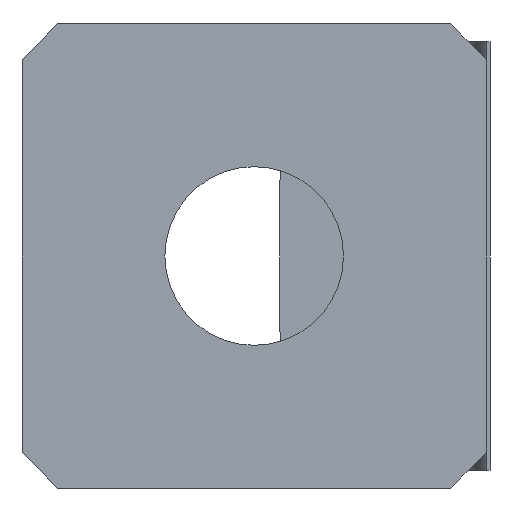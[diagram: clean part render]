
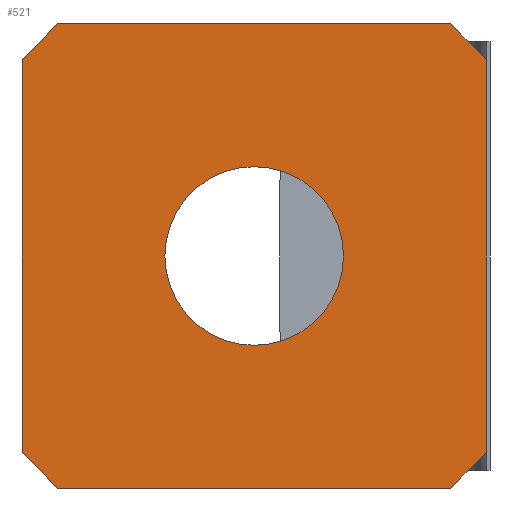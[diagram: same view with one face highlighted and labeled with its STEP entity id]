
A CAD part, front view. The second image highlights one B-rep face of the part: STEP entity #521.
In plain terms, the highlighted planar face has unit normal (0, -1, 0).
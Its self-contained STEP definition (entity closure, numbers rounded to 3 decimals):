
#3 = CARTESIAN_POINT ( 'NONE',  ( 6., 0., -6. ) ) ;
#10 = CARTESIAN_POINT ( 'NONE',  ( 0., 0., 0. ) ) ;
#11 = VECTOR ( 'NONE', #699, 1000. ) ;
#25 = VERTEX_POINT ( 'NONE', #425 ) ;
#32 = VERTEX_POINT ( 'NONE', #216 ) ;
#64 = CARTESIAN_POINT ( 'NONE',  ( 6.5, 0., 5.5 ) ) ;
#67 = CARTESIAN_POINT ( 'NONE',  ( 6.5, 0., 6.5 ) ) ;
#108 = ORIENTED_EDGE ( 'NONE', *, *, #355, .T. ) ;
#109 = CARTESIAN_POINT ( 'NONE',  ( -6., 0., -6. ) ) ;
#116 = DIRECTION ( 'NONE',  ( 1., 0., 0. ) ) ;
#125 = LINE ( 'NONE', #67, #422 ) ;
#129 = VECTOR ( 'NONE', #201, 1000. ) ;
#131 = CARTESIAN_POINT ( 'NONE',  ( 0., 0., 0. ) ) ;
#162 = VERTEX_POINT ( 'NONE', #883 ) ;
#163 = EDGE_CURVE ( 'NONE', #760, #32, #125, .T. ) ;
#164 = DIRECTION ( 'NONE',  ( 0., 0., 1. ) ) ;
#166 = CARTESIAN_POINT ( 'NONE',  ( 5.5, 0., -6.5 ) ) ;
#167 = VERTEX_POINT ( 'NONE', #818 ) ;
#180 = VERTEX_POINT ( 'NONE', #199 ) ;
#199 = CARTESIAN_POINT ( 'NONE',  ( 5.5, 0., 6.5 ) ) ;
#201 = DIRECTION ( 'NONE',  ( 0.707, 0., 0.707 ) ) ;
#216 = CARTESIAN_POINT ( 'NONE',  ( 6.5, 0., -5.5 ) ) ;
#218 = CIRCLE ( 'NONE', #826, 2.5 ) ;
#225 = ORIENTED_EDGE ( 'NONE', *, *, #684, .T. ) ;
#228 = VERTEX_POINT ( 'NONE', #286 ) ;
#231 = LINE ( 'NONE', #636, #583 ) ;
#262 = LINE ( 'NONE', #3, #129 ) ;
#271 = EDGE_LOOP ( 'NONE', ( #716 ) ) ;
#286 = CARTESIAN_POINT ( 'NONE',  ( 0., 0., 2.5 ) ) ;
#302 = VERTEX_POINT ( 'NONE', #166 ) ;
#303 = LINE ( 'NONE', #664, #459 ) ;
#347 = LINE ( 'NONE', #357, #11 ) ;
#355 = EDGE_CURVE ( 'NONE', #167, #162, #231, .T. ) ;
#357 = CARTESIAN_POINT ( 'NONE',  ( -6.5, 0., 6.5 ) ) ;
#358 = AXIS2_PLACEMENT_3D ( 'NONE', #131, #785, #416 ) ;
#377 = EDGE_CURVE ( 'NONE', #725, #162, #347, .T. ) ;
#379 = DIRECTION ( 'NONE',  ( 0.707, 0., -0.707 ) ) ;
#390 = DIRECTION ( 'NONE',  ( 0., 0., -1. ) ) ;
#416 = DIRECTION ( 'NONE',  ( 0., 0., -1. ) ) ;
#417 = EDGE_LOOP ( 'NONE', ( #764, #697, #438, #784, #630, #108, #462, #225 ) ) ;
#422 = VECTOR ( 'NONE', #390, 1000. ) ;
#425 = CARTESIAN_POINT ( 'NONE',  ( -5.5, 0., -6.5 ) ) ;
#438 = ORIENTED_EDGE ( 'NONE', *, *, #163, .F. ) ;
#459 = VECTOR ( 'NONE', #859, 1000. ) ;
#462 = ORIENTED_EDGE ( 'NONE', *, *, #377, .F. ) ;
#473 = EDGE_CURVE ( 'NONE', #167, #180, #529, .T. ) ;
#478 = FACE_BOUND ( 'NONE', #271, .T. ) ;
#484 = DIRECTION ( 'NONE',  ( 0., 1., 0. ) ) ;
#521 = ADVANCED_FACE ( 'NONE', ( #478, #768 ), #561, .T. ) ;
#529 = LINE ( 'NONE', #740, #770 ) ;
#561 = PLANE ( 'NONE',  #358 ) ;
#564 = VECTOR ( 'NONE', #379, 1000. ) ;
#583 = VECTOR ( 'NONE', #652, 1000. ) ;
#585 = EDGE_CURVE ( 'NONE', #228, #228, #218, .T. ) ;
#600 = EDGE_CURVE ( 'NONE', #760, #180, #303, .T. ) ;
#601 = CARTESIAN_POINT ( 'NONE',  ( -6.5, 0., -6.5 ) ) ;
#612 = CARTESIAN_POINT ( 'NONE',  ( -6.5, 0., -5.5 ) ) ;
#630 = ORIENTED_EDGE ( 'NONE', *, *, #473, .F. ) ;
#636 = CARTESIAN_POINT ( 'NONE',  ( -6., 0., 6. ) ) ;
#652 = DIRECTION ( 'NONE',  ( -0.707, 0., -0.707 ) ) ;
#664 = CARTESIAN_POINT ( 'NONE',  ( 6., 0., 6. ) ) ;
#684 = EDGE_CURVE ( 'NONE', #725, #25, #730, .T. ) ;
#697 = ORIENTED_EDGE ( 'NONE', *, *, #737, .T. ) ;
#699 = DIRECTION ( 'NONE',  ( 0., 0., 1. ) ) ;
#716 = ORIENTED_EDGE ( 'NONE', *, *, #585, .T. ) ;
#725 = VERTEX_POINT ( 'NONE', #612 ) ;
#730 = LINE ( 'NONE', #109, #564 ) ;
#737 = EDGE_CURVE ( 'NONE', #302, #32, #262, .T. ) ;
#740 = CARTESIAN_POINT ( 'NONE',  ( -6.5, 0., 6.5 ) ) ;
#760 = VERTEX_POINT ( 'NONE', #64 ) ;
#764 = ORIENTED_EDGE ( 'NONE', *, *, #765, .F. ) ;
#765 = EDGE_CURVE ( 'NONE', #302, #25, #881, .T. ) ;
#768 = FACE_OUTER_BOUND ( 'NONE', #417, .T. ) ;
#770 = VECTOR ( 'NONE', #116, 1000. ) ;
#784 = ORIENTED_EDGE ( 'NONE', *, *, #600, .T. ) ;
#785 = DIRECTION ( 'NONE',  ( 0., -1., 0. ) ) ;
#818 = CARTESIAN_POINT ( 'NONE',  ( -5.5, 0., 6.5 ) ) ;
#826 = AXIS2_PLACEMENT_3D ( 'NONE', #10, #484, #164 ) ;
#859 = DIRECTION ( 'NONE',  ( -0.707, 0., 0.707 ) ) ;
#870 = VECTOR ( 'NONE', #876, 1000. ) ;
#876 = DIRECTION ( 'NONE',  ( -1., 0., 0. ) ) ;
#881 = LINE ( 'NONE', #601, #870 ) ;
#883 = CARTESIAN_POINT ( 'NONE',  ( -6.5, 0., 5.5 ) ) ;
